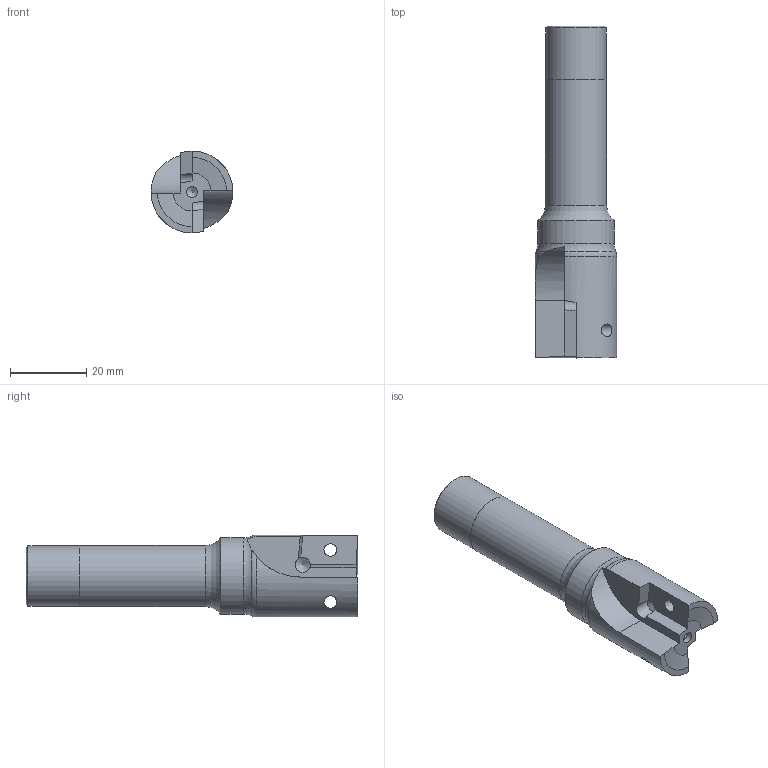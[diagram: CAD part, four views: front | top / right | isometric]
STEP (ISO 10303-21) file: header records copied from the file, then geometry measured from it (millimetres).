
FILE_DESCRIPTION(/* description */ ('STEP AP242','CAx-IF Rec.Pracs.---Representation and Presentation of Product Manufacturing Information (PMI)---4.0---2014-10-13','CAx-IF Rec.Pracs.---3D Tessellated Geometry---0.4---2014-09-14','2;1'),/* implementation_level */ '2;1');
FILE_NAME(/* name */ '62896dd5218d1d41f8dcfde2',/* time_stamp */ '2022-05-21T22:55:19+00:00',/* author */ (''),/* organization */ (''),/* preprocessor_version */ 'ST-DEVELOPER v18.102',/* originating_system */ ' ',/* authorisation */ ' ');
FILE_SCHEMA (('AP242_MANAGED_MODEL_BASED_3D_ENGINEERING_MIM_LF { 1 0 10303 442 1 1 4 }'));
Length unit declared in the file: metre
Products named in the file (1): 25mm 2 Flute Insert Endmill Holder
Bounding box: 21.45 x 87 x 21.45 mm (x, y, z)
Volume: 18993.7 mm3; surface area: 5894.5 mm2
Topology: 1 solids, 1 shells, 40 faces, 109 edges, 70 vertices
Faces by surface type: plane 15, cylinder 13, cone 8, torus 4
Full cylindrical faces by diameter (mm): 1 x1, 3 x1, 3.3 x2, 4 x2, 15.9 x1, 16 x1, 20 x1
Entity records: 1204 total; most frequent: CARTESIAN_POINT 267, DIRECTION 190, ORIENTED_EDGE 168, EDGE_CURVE 84, AXIS2_PLACEMENT_3D 79, VERTEX_POINT 66, FACE_BOUND 64, EDGE_LOOP 60
